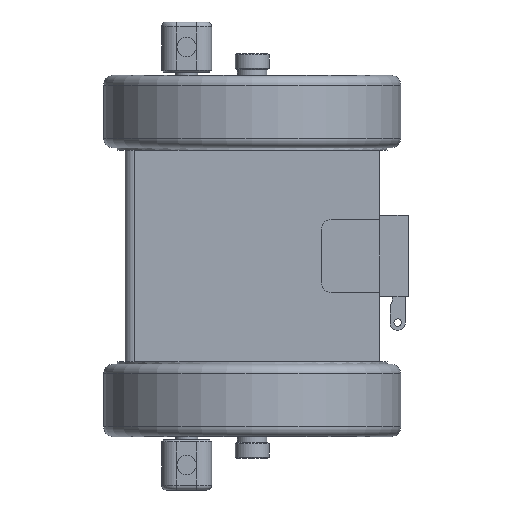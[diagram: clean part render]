
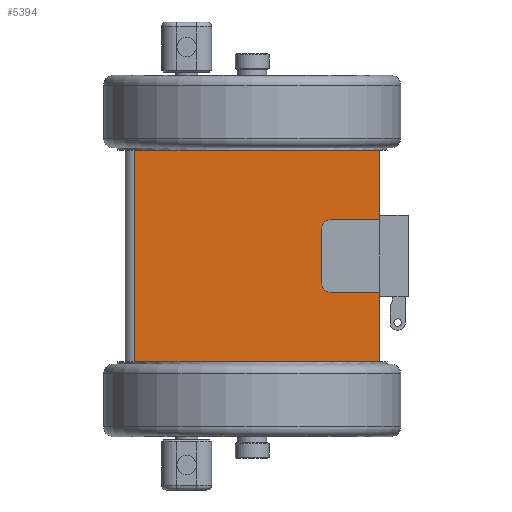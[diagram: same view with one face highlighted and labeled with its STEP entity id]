
A CAD part, left-side view. The second image highlights one B-rep face of the part: STEP entity #5394.
In plain terms, the highlighted planar face has unit normal (-1, 0, 0).
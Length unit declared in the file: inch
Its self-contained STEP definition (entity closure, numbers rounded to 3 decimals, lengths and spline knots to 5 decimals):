
#1995 = EDGE_CURVE ( 'NONE', #3918, #17750, #33814, .T. ) ;
#2001 = EDGE_CURVE ( 'NONE', #6667, #6772, #33823, .T. ) ;
#2007 = EDGE_CURVE ( 'NONE', #3927, #17746, #33831, .T. ) ;
#2018 = EDGE_CURVE ( 'NONE', #17799, #17801, #33850, .T. ) ;
#2020 = EDGE_CURVE ( 'NONE', #17801, #17787, #33854, .T. ) ;
#2021 = EDGE_CURVE ( 'NONE', #17799, #3566, #33848, .T. ) ;
#2065 = EDGE_CURVE ( 'NONE', #17750, #6772, #33881, .T. ) ;
#2067 = EDGE_CURVE ( 'NONE', #17807, #17830, #33938, .T. ) ;
#2068 = EDGE_CURVE ( 'NONE', #17811, #17807, #33932, .T. ) ;
#2069 = EDGE_CURVE ( 'NONE', #17813, #6667, #33939, .T. ) ;
#2072 = EDGE_CURVE ( 'NONE', #3566, #3918, #33945, .T. ) ;
#2075 = EDGE_CURVE ( 'NONE', #17746, #17795, #33951, .T. ) ;
#2076 = EDGE_CURVE ( 'NONE', #17795, #17811, #33940, .T. ) ;
#2077 = EDGE_CURVE ( 'NONE', #17787, #3521, #33953, .T. ) ;
#2088 = EDGE_CURVE ( 'NONE', #17830, #17813, #33958, .T. ) ;
#2170 = EDGE_CURVE ( 'NONE', #3521, #3927, #34123, .T. ) ;
#3521 = VERTEX_POINT ( 'NONE', #11249 ) ;
#3566 = VERTEX_POINT ( 'NONE', #11232 ) ;
#3762 = CARTESIAN_POINT ( 'NONE',  ( -3.297, -3.297, -1.06 ) ) ;
#3880 = CARTESIAN_POINT ( 'NONE',  ( -3.297, -3.297, -2.747 ) ) ;
#3918 = VERTEX_POINT ( 'NONE', #35033 ) ;
#3927 = VERTEX_POINT ( 'NONE', #35030 ) ;
#5394 = ADVANCED_FACE ( 'NONE', ( #37862 ), #22096, .F. ) ;
#6667 = VERTEX_POINT ( 'NONE', #3762 ) ;
#6772 = VERTEX_POINT ( 'NONE', #3880 ) ;
#6960 = AXIS2_PLACEMENT_3D ( 'NONE', #22087, #22094, #22095 ) ;
#11232 = CARTESIAN_POINT ( 'NONE',  ( -3.297, 3.047, -2.747 ) ) ;
#11249 = CARTESIAN_POINT ( 'NONE',  ( -3.297, -3.297, 2.747 ) ) ;
#17190 = ORIENTED_EDGE ( 'NONE', *, *, #1995, .T. ) ;
#17746 = VERTEX_POINT ( 'NONE', #22838 ) ;
#17750 = VERTEX_POINT ( 'NONE', #22842 ) ;
#17787 = VERTEX_POINT ( 'NONE', #22879 ) ;
#17795 = VERTEX_POINT ( 'NONE', #22887 ) ;
#17799 = VERTEX_POINT ( 'NONE', #22891 ) ;
#17801 = VERTEX_POINT ( 'NONE', #22893 ) ;
#17807 = VERTEX_POINT ( 'NONE', #22899 ) ;
#17811 = VERTEX_POINT ( 'NONE', #22903 ) ;
#17813 = VERTEX_POINT ( 'NONE', #22905 ) ;
#17830 = VERTEX_POINT ( 'NONE', #22921 ) ;
#22087 = CARTESIAN_POINT ( 'NONE',  ( -3.297, 3.297, 2.647 ) ) ;
#22094 = DIRECTION ( 'NONE',  ( 1., 0., 0. ) ) ;
#22095 = DIRECTION ( 'NONE',  ( 0., 1., 0. ) ) ;
#22096 = PLANE ( 'NONE',  #6960 ) ;
#22838 = CARTESIAN_POINT ( 'NONE',  ( -3.297, -3.297, 0.943 ) ) ;
#22842 = CARTESIAN_POINT ( 'NONE',  ( -3.297, -1.16568, -2.747 ) ) ;
#22879 = CARTESIAN_POINT ( 'NONE',  ( -3.297, -1.16568, 2.747 ) ) ;
#22887 = CARTESIAN_POINT ( 'NONE',  ( -3.297, -2.047, 0.943 ) ) ;
#22891 = CARTESIAN_POINT ( 'NONE',  ( -3.297, 3.047, 2.747 ) ) ;
#22893 = CARTESIAN_POINT ( 'NONE',  ( -3.297, 1.16568, 2.747 ) ) ;
#22899 = CARTESIAN_POINT ( 'NONE',  ( -3.297, -1.797, -0.693 ) ) ;
#22903 = CARTESIAN_POINT ( 'NONE',  ( -3.297, -1.797, 0.693 ) ) ;
#22905 = CARTESIAN_POINT ( 'NONE',  ( -3.297, -3.297, -0.943 ) ) ;
#22921 = CARTESIAN_POINT ( 'NONE',  ( -3.297, -2.047, -0.943 ) ) ;
#24092 = AXIS2_PLACEMENT_3D ( 'NONE', #28054, #28069, #28055 ) ;
#24100 = AXIS2_PLACEMENT_3D ( 'NONE', #28082, #27679, #27751 ) ;
#25865 = ORIENTED_EDGE ( 'NONE', *, *, #2021, .T. ) ;
#25881 = ORIENTED_EDGE ( 'NONE', *, *, #2007, .F. ) ;
#25973 = ORIENTED_EDGE ( 'NONE', *, *, #2077, .F. ) ;
#25979 = ORIENTED_EDGE ( 'NONE', *, *, #2069, .F. ) ;
#26059 = ORIENTED_EDGE ( 'NONE', *, *, #2076, .F. ) ;
#26129 = ORIENTED_EDGE ( 'NONE', *, *, #2020, .F. ) ;
#26336 = ORIENTED_EDGE ( 'NONE', *, *, #2075, .F. ) ;
#26353 = ORIENTED_EDGE ( 'NONE', *, *, #2001, .F. ) ;
#26403 = ORIENTED_EDGE ( 'NONE', *, *, #2072, .T. ) ;
#26407 = ORIENTED_EDGE ( 'NONE', *, *, #2067, .F. ) ;
#26507 = ORIENTED_EDGE ( 'NONE', *, *, #2065, .T. ) ;
#26535 = ORIENTED_EDGE ( 'NONE', *, *, #2018, .F. ) ;
#26555 = ORIENTED_EDGE ( 'NONE', *, *, #2068, .F. ) ;
#26733 = ORIENTED_EDGE ( 'NONE', *, *, #2088, .F. ) ;
#26863 = ORIENTED_EDGE ( 'NONE', *, *, #2170, .F. ) ;
#27679 = DIRECTION ( 'NONE',  ( -1., 0., 0. ) ) ;
#27739 = DIRECTION ( 'NONE',  ( 0., 0., -1. ) ) ;
#27751 = DIRECTION ( 'NONE',  ( 0., 1., 0. ) ) ;
#27755 = DIRECTION ( 'NONE',  ( 0., 0., -1. ) ) ;
#27772 = DIRECTION ( 'NONE',  ( 0., 0., -1. ) ) ;
#28046 = DIRECTION ( 'NONE',  ( 0., -1., 0. ) ) ;
#28054 = CARTESIAN_POINT ( 'NONE',  ( -3.297, -2.047, 0.693 ) ) ;
#28055 = DIRECTION ( 'NONE',  ( 0., 1., 0. ) ) ;
#28062 = DIRECTION ( 'NONE',  ( 0., -1., 0. ) ) ;
#28063 = CARTESIAN_POINT ( 'NONE',  ( -3.297, -3.297, 0.943 ) ) ;
#28067 = DIRECTION ( 'NONE',  ( 0., 1., 0. ) ) ;
#28068 = CARTESIAN_POINT ( 'NONE',  ( -3.297, 3.297, 2.747 ) ) ;
#28069 = DIRECTION ( 'NONE',  ( -1., 0., 0. ) ) ;
#28082 = CARTESIAN_POINT ( 'NONE',  ( -3.297, -2.047, -0.693 ) ) ;
#28083 = CARTESIAN_POINT ( 'NONE',  ( -3.297, -1.797, -0.693 ) ) ;
#28088 = DIRECTION ( 'NONE',  ( 0., -1., 0. ) ) ;
#28100 = CARTESIAN_POINT ( 'NONE',  ( -3.297, 3.297, -2.747 ) ) ;
#28199 = CARTESIAN_POINT ( 'NONE',  ( -3.297, -3.297, -0.943 ) ) ;
#28201 = CARTESIAN_POINT ( 'NONE',  ( -3.297, -3.297, 2.647 ) ) ;
#28333 = CARTESIAN_POINT ( 'NONE',  ( -3.297, -3.297, 2.647 ) ) ;
#28536 = CARTESIAN_POINT ( 'NONE',  ( -3.297, 3.297, -2.747 ) ) ;
#28543 = CARTESIAN_POINT ( 'NONE',  ( -3.297, 3.297, -2.747 ) ) ;
#28607 = DIRECTION ( 'NONE',  ( 0., -1., 0. ) ) ;
#28687 = CARTESIAN_POINT ( 'NONE',  ( -3.297, -3.297, 2.647 ) ) ;
#28695 = DIRECTION ( 'NONE',  ( 0., 0., -1. ) ) ;
#28732 = DIRECTION ( 'NONE',  ( 0., 0., -1. ) ) ;
#28747 = CARTESIAN_POINT ( 'NONE',  ( -3.297, -3.297, 1.06 ) ) ;
#28768 = EDGE_LOOP ( 'NONE', ( #25979, #26733, #26407, #26555, #26059, #26336, #25881, #26863, #25973, #26129, #26535, #25865, #26403, #17190, #26507, #26353 ) ) ;
#28835 = DIRECTION ( 'NONE',  ( 0., -1., 0. ) ) ;
#28844 = CARTESIAN_POINT ( 'NONE',  ( -3.297, 3.297, 2.747 ) ) ;
#28851 = CARTESIAN_POINT ( 'NONE',  ( -3.297, 3.297, 2.747 ) ) ;
#28854 = DIRECTION ( 'NONE',  ( 0., -1., 0. ) ) ;
#28863 = CARTESIAN_POINT ( 'NONE',  ( -3.297, 3.047, -2.747 ) ) ;
#28876 = DIRECTION ( 'NONE',  ( 0., 0., -1. ) ) ;
#29109 = DIRECTION ( 'NONE',  ( 0., -1., 0. ) ) ;
#33814 = LINE ( 'NONE', #28543, #33817 ) ;
#33817 = VECTOR ( 'NONE', #28607, 39.37008 ) ;
#33823 = LINE ( 'NONE', #28687, #33826 ) ;
#33826 = VECTOR ( 'NONE', #28695, 39.37008 ) ;
#33831 = LINE ( 'NONE', #28747, #33833 ) ;
#33833 = VECTOR ( 'NONE', #28732, 39.37008 ) ;
#33848 = LINE ( 'NONE', #28863, #33858 ) ;
#33850 = LINE ( 'NONE', #28851, #33853 ) ;
#33853 = VECTOR ( 'NONE', #28854, 39.37008 ) ;
#33854 = LINE ( 'NONE', #28844, #33856 ) ;
#33856 = VECTOR ( 'NONE', #28835, 39.37008 ) ;
#33858 = VECTOR ( 'NONE', #28876, 39.37008 ) ;
#33881 = LINE ( 'NONE', #28536, #33937 ) ;
#33932 = LINE ( 'NONE', #28083, #33941 ) ;
#33937 = VECTOR ( 'NONE', #29109, 39.37008 ) ;
#33938 = CIRCLE ( 'NONE', #24100, 0.25 ) ;
#33939 = LINE ( 'NONE', #28333, #33943 ) ;
#33940 = CIRCLE ( 'NONE', #24092, 0.25 ) ;
#33941 = VECTOR ( 'NONE', #27772, 39.37008 ) ;
#33943 = VECTOR ( 'NONE', #27755, 39.37008 ) ;
#33945 = LINE ( 'NONE', #28100, #33948 ) ;
#33948 = VECTOR ( 'NONE', #28088, 39.37008 ) ;
#33951 = LINE ( 'NONE', #28063, #33954 ) ;
#33953 = LINE ( 'NONE', #28068, #33957 ) ;
#33954 = VECTOR ( 'NONE', #28067, 39.37008 ) ;
#33957 = VECTOR ( 'NONE', #28062, 39.37008 ) ;
#33958 = LINE ( 'NONE', #28199, #33978 ) ;
#33978 = VECTOR ( 'NONE', #28046, 39.37008 ) ;
#34123 = LINE ( 'NONE', #28201, #34126 ) ;
#34126 = VECTOR ( 'NONE', #27739, 39.37008 ) ;
#35030 = CARTESIAN_POINT ( 'NONE',  ( -3.297, -3.297, 1.06 ) ) ;
#35033 = CARTESIAN_POINT ( 'NONE',  ( -3.297, 1.16568, -2.747 ) ) ;
#37862 = FACE_OUTER_BOUND ( 'NONE', #28768, .T. ) ;
